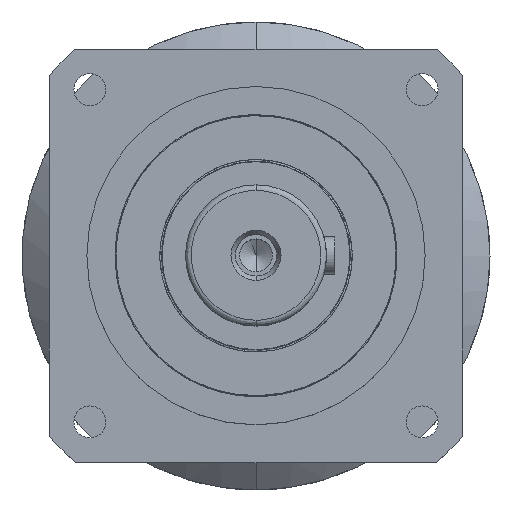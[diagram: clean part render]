
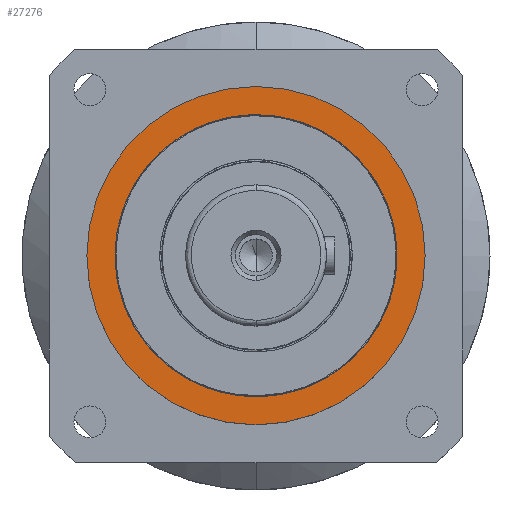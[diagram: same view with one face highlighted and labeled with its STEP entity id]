
A CAD part, top view. The second image highlights one B-rep face of the part: STEP entity #27276.
In plain terms, the highlighted planar face has unit normal (0, 0, 1) as drawn and (0, 0, -1) by its records, which use the part's own axes.
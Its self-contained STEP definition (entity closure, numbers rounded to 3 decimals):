
#1760 = DIRECTION ( 'NONE',  ( 0., 1., 0. ) ) ;
#2900 = DIRECTION ( 'NONE',  ( 0., 1., 0. ) ) ;
#4498 = CARTESIAN_POINT ( 'NONE',  ( 0., 0., -124. ) ) ;
#4815 = ORIENTED_EDGE ( 'NONE', *, *, #26402, .F. ) ;
#5926 = CIRCLE ( 'NONE', #27615, 90. ) ;
#6848 = DIRECTION ( 'NONE',  ( 0., 0., -1. ) ) ;
#7664 = DIRECTION ( 'NONE',  ( 0., 1., 0. ) ) ;
#8138 = EDGE_CURVE ( 'NONE', #8767, #20391, #36281, .T. ) ;
#8767 = VERTEX_POINT ( 'NONE', #25914 ) ;
#9146 = CARTESIAN_POINT ( 'NONE',  ( 75., 0., -124. ) ) ;
#9983 = CIRCLE ( 'NONE', #19438, 75. ) ;
#11392 = CIRCLE ( 'NONE', #36458, 75. ) ;
#12275 = DIRECTION ( 'NONE',  ( 0., -1., 0. ) ) ;
#14767 = FACE_BOUND ( 'NONE', #36761, .T. ) ;
#15255 = PLANE ( 'NONE',  #21452 ) ;
#15406 = ORIENTED_EDGE ( 'NONE', *, *, #15812, .F. ) ;
#15812 = EDGE_CURVE ( 'NONE', #20391, #8767, #5926, .T. ) ;
#16413 = VERTEX_POINT ( 'NONE', #21343 ) ;
#16504 = CARTESIAN_POINT ( 'NONE',  ( 0., 90., -124. ) ) ;
#19438 = AXIS2_PLACEMENT_3D ( 'NONE', #40505, #21693, #2900 ) ;
#20391 = VERTEX_POINT ( 'NONE', #16504 ) ;
#20566 = DIRECTION ( 'NONE',  ( 0., 0., 1. ) ) ;
#21343 = CARTESIAN_POINT ( 'NONE',  ( 0., -75., -124. ) ) ;
#21452 = AXIS2_PLACEMENT_3D ( 'NONE', #9146, #31085, #12275 ) ;
#21693 = DIRECTION ( 'NONE',  ( 0., 0., -1. ) ) ;
#24101 = FACE_OUTER_BOUND ( 'NONE', #28641, .T. ) ;
#25617 = CARTESIAN_POINT ( 'NONE',  ( 0., 0., -124. ) ) ;
#25895 = ORIENTED_EDGE ( 'NONE', *, *, #8138, .F. ) ;
#25914 = CARTESIAN_POINT ( 'NONE',  ( 0., -90., -124. ) ) ;
#26402 = EDGE_CURVE ( 'NONE', #16413, #36229, #11392, .T. ) ;
#26412 = DIRECTION ( 'NONE',  ( 0., 0., 1. ) ) ;
#27276 = ADVANCED_FACE ( 'NONE', ( #24101, #14767 ), #15255, .F. ) ;
#27506 = ORIENTED_EDGE ( 'NONE', *, *, #32768, .F. ) ;
#27615 = AXIS2_PLACEMENT_3D ( 'NONE', #39373, #20566, #1760 ) ;
#28641 = EDGE_LOOP ( 'NONE', ( #15406, #25895 ) ) ;
#28775 = DIRECTION ( 'NONE',  ( 0., 1., 0. ) ) ;
#31003 = CARTESIAN_POINT ( 'NONE',  ( 0., 75., -124. ) ) ;
#31085 = DIRECTION ( 'NONE',  ( 0., 0., 1. ) ) ;
#32768 = EDGE_CURVE ( 'NONE', #36229, #16413, #9983, .T. ) ;
#36229 = VERTEX_POINT ( 'NONE', #31003 ) ;
#36281 = CIRCLE ( 'NONE', #37636, 90. ) ;
#36458 = AXIS2_PLACEMENT_3D ( 'NONE', #25617, #6848, #28775 ) ;
#36761 = EDGE_LOOP ( 'NONE', ( #27506, #4815 ) ) ;
#37636 = AXIS2_PLACEMENT_3D ( 'NONE', #4498, #26412, #7664 ) ;
#39373 = CARTESIAN_POINT ( 'NONE',  ( 0., 0., -124. ) ) ;
#40505 = CARTESIAN_POINT ( 'NONE',  ( 0., 0., -124. ) ) ;
